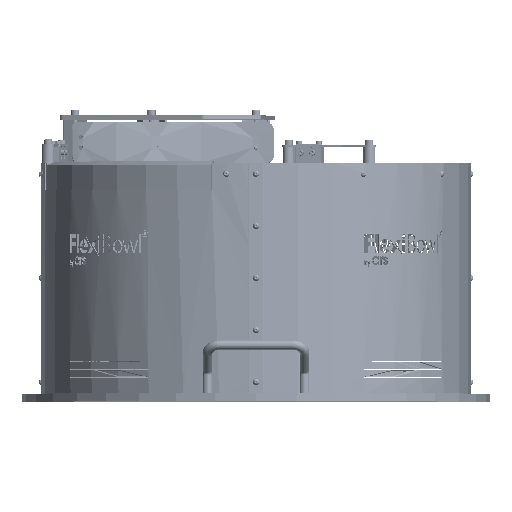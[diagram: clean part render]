
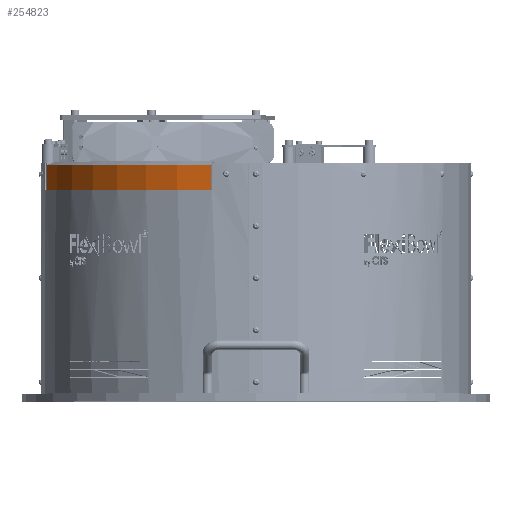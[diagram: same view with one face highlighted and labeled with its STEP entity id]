
A CAD part, top view. The second image highlights one B-rep face of the part: STEP entity #254823.
In plain terms, the highlighted cylindrical face has radius 265.5 mm (diameter 531 mm), a partial arc.
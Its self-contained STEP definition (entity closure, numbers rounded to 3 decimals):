
#4631 = CARTESIAN_POINT ( 'NONE',  ( -144.116, 222.982, 35.776 ) ) ;
#8759 = CARTESIAN_POINT ( 'NONE',  ( -144.116, 222.982, 40. ) ) ;
#26614 = EDGE_CURVE ( 'NONE', #315821, #327241, #329952, .T. ) ;
#33749 = AXIS2_PLACEMENT_3D ( 'NONE', #57482, #111916, #134167 ) ;
#41425 = VECTOR ( 'NONE', #90835, 1000. ) ;
#43632 = ORIENTED_EDGE ( 'NONE', *, *, #165060, .T. ) ;
#47840 = CARTESIAN_POINT ( 'NONE',  ( 144.116, 222.982, 35.776 ) ) ;
#52098 = ORIENTED_EDGE ( 'NONE', *, *, #260305, .T. ) ;
#57482 = CARTESIAN_POINT ( 'NONE',  ( 0., 0., 35.776 ) ) ;
#72005 = CIRCLE ( 'NONE', #33749, 265.5 ) ;
#79046 = ORIENTED_EDGE ( 'NONE', *, *, #134247, .F. ) ;
#90835 = DIRECTION ( 'NONE',  ( 0., 0., -1. ) ) ;
#104618 = CIRCLE ( 'NONE', #284597, 265.5 ) ;
#110588 = CARTESIAN_POINT ( 'NONE',  ( 144.116, 222.982, 0. ) ) ;
#111916 = DIRECTION ( 'NONE',  ( 0., 0., -1. ) ) ;
#112877 = DIRECTION ( 'NONE',  ( 0., 0., -1. ) ) ;
#119111 = VERTEX_POINT ( 'NONE', #4631 ) ;
#134167 = DIRECTION ( 'NONE',  ( 1., 0., 0. ) ) ;
#134247 = EDGE_CURVE ( 'NONE', #119111, #326014, #242625, .T. ) ;
#136847 = DIRECTION ( 'NONE',  ( 0., 0., 1. ) ) ;
#140217 = ORIENTED_EDGE ( 'NONE', *, *, #26614, .T. ) ;
#143756 = AXIS2_PLACEMENT_3D ( 'NONE', #178802, #175430, #334432 ) ;
#165060 = EDGE_CURVE ( 'NONE', #119111, #315821, #72005, .T. ) ;
#175430 = DIRECTION ( 'NONE',  ( 0., 0., -1. ) ) ;
#178802 = CARTESIAN_POINT ( 'NONE',  ( 0., 0., 40. ) ) ;
#184019 = EDGE_LOOP ( 'NONE', ( #79046, #43632, #140217, #52098 ) ) ;
#208558 = CARTESIAN_POINT ( 'NONE',  ( 0., 0., 0. ) ) ;
#220509 = CARTESIAN_POINT ( 'NONE',  ( 144.116, 222.982, 40. ) ) ;
#242625 = LINE ( 'NONE', #8759, #304573 ) ;
#254823 = ADVANCED_FACE ( 'NONE', ( #312206 ), #279724, .T. ) ;
#260305 = EDGE_CURVE ( 'NONE', #327241, #326014, #104618, .T. ) ;
#277089 = CARTESIAN_POINT ( 'NONE',  ( -144.116, 222.982, 0. ) ) ;
#279724 = CYLINDRICAL_SURFACE ( 'NONE', #143756, 265.5 ) ;
#284597 = AXIS2_PLACEMENT_3D ( 'NONE', #208558, #136847, #287325 ) ;
#287325 = DIRECTION ( 'NONE',  ( 1., 0., 0. ) ) ;
#304573 = VECTOR ( 'NONE', #112877, 1000. ) ;
#312206 = FACE_OUTER_BOUND ( 'NONE', #184019, .T. ) ;
#315821 = VERTEX_POINT ( 'NONE', #47840 ) ;
#326014 = VERTEX_POINT ( 'NONE', #277089 ) ;
#327241 = VERTEX_POINT ( 'NONE', #110588 ) ;
#329952 = LINE ( 'NONE', #220509, #41425 ) ;
#334432 = DIRECTION ( 'NONE',  ( -1., 0., 0. ) ) ;
